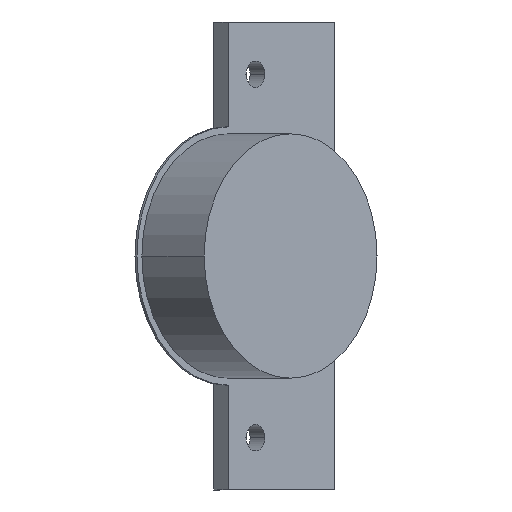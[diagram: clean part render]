
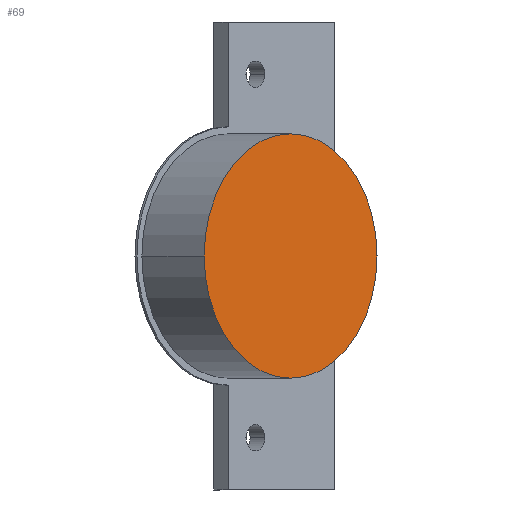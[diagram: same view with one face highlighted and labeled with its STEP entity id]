
A CAD part, front view. The second image highlights one B-rep face of the part: STEP entity #69.
In plain terms, the highlighted planar face has unit normal (0.707, -0.707, 0).
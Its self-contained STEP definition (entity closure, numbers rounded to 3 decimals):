
#11 = AXIS2_PLACEMENT_3D ( 'NONE', #252, #742, #1150 ) ;
#66 = VERTEX_POINT ( 'NONE', #73 ) ;
#69 = ADVANCED_FACE ( 'NONE', ( #676 ), #1387, .T. ) ;
#73 = CARTESIAN_POINT ( 'NONE',  ( 6.085, -74.524, 0. ) ) ;
#166 = CIRCLE ( 'NONE', #11, 17.5 ) ;
#226 = ORIENTED_EDGE ( 'NONE', *, *, #463, .T. ) ;
#252 = CARTESIAN_POINT ( 'NONE',  ( 18.46, -62.15, 0. ) ) ;
#299 = EDGE_CURVE ( 'NONE', #978, #66, #984, .T. ) ;
#463 = EDGE_CURVE ( 'NONE', #66, #978, #166, .T. ) ;
#676 = FACE_OUTER_BOUND ( 'NONE', #1418, .T. ) ;
#694 = DIRECTION ( 'NONE',  ( 0.707, -0.707, 0. ) ) ;
#723 = AXIS2_PLACEMENT_3D ( 'NONE', #1087, #694, #821 ) ;
#742 = DIRECTION ( 'NONE',  ( 0.707, -0.707, 0. ) ) ;
#818 = ORIENTED_EDGE ( 'NONE', *, *, #299, .T. ) ;
#821 = DIRECTION ( 'NONE',  ( 0.707, 0.707, 0. ) ) ;
#901 = DIRECTION ( 'NONE',  ( 0.707, -0.707, 0. ) ) ;
#935 = AXIS2_PLACEMENT_3D ( 'NONE', #1396, #901, #1275 ) ;
#978 = VERTEX_POINT ( 'NONE', #1459 ) ;
#984 = CIRCLE ( 'NONE', #723, 17.5 ) ;
#1087 = CARTESIAN_POINT ( 'NONE',  ( 18.46, -62.15, 0. ) ) ;
#1150 = DIRECTION ( 'NONE',  ( 0.707, 0.707, 0. ) ) ;
#1275 = DIRECTION ( 'NONE',  ( 0.707, 0.707, 0. ) ) ;
#1387 = PLANE ( 'NONE',  #935 ) ;
#1396 = CARTESIAN_POINT ( 'NONE',  ( 18.46, -62.15, 0. ) ) ;
#1418 = EDGE_LOOP ( 'NONE', ( #226, #818 ) ) ;
#1459 = CARTESIAN_POINT ( 'NONE',  ( 30.834, -49.775, 0. ) ) ;
